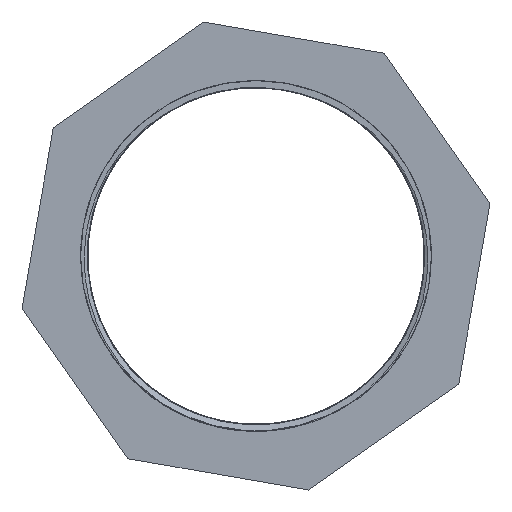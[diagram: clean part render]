
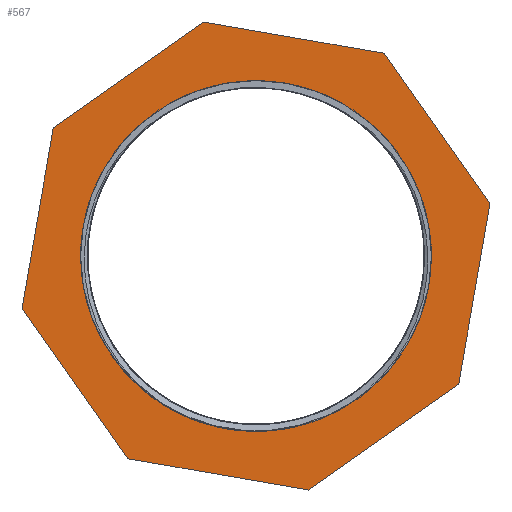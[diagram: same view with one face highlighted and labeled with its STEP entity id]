
A CAD part, left-side view. The second image highlights one B-rep face of the part: STEP entity #567.
In plain terms, the highlighted planar face has unit normal (-1, 0, 0).
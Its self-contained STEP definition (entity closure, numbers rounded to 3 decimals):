
#71=LINE('',#764,#95);
#75=LINE('',#771,#99);
#78=LINE('',#777,#102);
#81=LINE('',#783,#105);
#84=LINE('',#789,#108);
#87=LINE('',#795,#111);
#90=LINE('',#801,#114);
#92=LINE('',#804,#116);
#95=VECTOR('',#658,10.);
#99=VECTOR('',#664,10.);
#102=VECTOR('',#669,10.);
#105=VECTOR('',#674,10.);
#108=VECTOR('',#679,10.);
#111=VECTOR('',#684,10.);
#114=VECTOR('',#689,10.);
#116=VECTOR('',#693,10.);
#132=FACE_BOUND('',#200,.T.);
#155=FACE_OUTER_BOUND('',#199,.T.);
#199=EDGE_LOOP('',(#432,#433,#434,#435,#436,#437,#438,#439));
#200=EDGE_LOOP('',(#440));
#236=CIRCLE('',#616,37.59);
#252=VERTEX_POINT('',#761);
#253=VERTEX_POINT('',#763);
#255=VERTEX_POINT('',#769);
#257=VERTEX_POINT('',#775);
#259=VERTEX_POINT('',#781);
#261=VERTEX_POINT('',#787);
#263=VERTEX_POINT('',#793);
#265=VERTEX_POINT('',#799);
#268=VERTEX_POINT('',#813);
#308=EDGE_CURVE('',#252,#253,#71,.T.);
#312=EDGE_CURVE('',#255,#252,#75,.T.);
#315=EDGE_CURVE('',#257,#255,#78,.T.);
#318=EDGE_CURVE('',#259,#257,#81,.T.);
#321=EDGE_CURVE('',#261,#259,#84,.T.);
#324=EDGE_CURVE('',#263,#261,#87,.T.);
#327=EDGE_CURVE('',#265,#263,#90,.T.);
#329=EDGE_CURVE('',#253,#265,#92,.T.);
#332=EDGE_CURVE('',#268,#268,#236,.T.);
#432=ORIENTED_EDGE('',*,*,#318,.F.);
#433=ORIENTED_EDGE('',*,*,#321,.F.);
#434=ORIENTED_EDGE('',*,*,#324,.F.);
#435=ORIENTED_EDGE('',*,*,#327,.F.);
#436=ORIENTED_EDGE('',*,*,#329,.F.);
#437=ORIENTED_EDGE('',*,*,#308,.F.);
#438=ORIENTED_EDGE('',*,*,#312,.F.);
#439=ORIENTED_EDGE('',*,*,#315,.F.);
#440=ORIENTED_EDGE('',*,*,#332,.F.);
#547=PLANE('',#615);
#567=ADVANCED_FACE('',(#155,#132),#547,.T.);
#615=AXIS2_PLACEMENT_3D('',#812,#704,#705);
#616=AXIS2_PLACEMENT_3D('',#814,#706,#707);
#658=DIRECTION('',(0.,-0.985,-0.171));
#664=DIRECTION('',(0.,-0.817,0.576));
#669=DIRECTION('',(0.,-0.171,0.985));
#674=DIRECTION('',(0.,0.576,0.817));
#679=DIRECTION('',(0.,0.985,0.171));
#684=DIRECTION('',(0.,0.817,-0.576));
#689=DIRECTION('',(0.,0.171,-0.985));
#693=DIRECTION('',(0.,-0.576,-0.817));
#704=DIRECTION('center_axis',(-1.,0.,0.));
#705=DIRECTION('ref_axis',(0.,0.,1.));
#706=DIRECTION('center_axis',(-1.,0.,0.));
#707=DIRECTION('ref_axis',(0.,0.,1.));
#761=CARTESIAN_POINT('',(0.,11.28,50.161));
#763=CARTESIAN_POINT('',(0.,-27.493,43.445));
#764=CARTESIAN_POINT('',(0.,11.28,50.161));
#769=CARTESIAN_POINT('',(0.,43.445,27.493));
#771=CARTESIAN_POINT('',(0.,43.445,27.493));
#775=CARTESIAN_POINT('',(0.,50.161,-11.28));
#777=CARTESIAN_POINT('',(0.,50.161,-11.28));
#781=CARTESIAN_POINT('',(0.,27.493,-43.445));
#783=CARTESIAN_POINT('',(0.,27.493,-43.445));
#787=CARTESIAN_POINT('',(0.,-11.28,-50.161));
#789=CARTESIAN_POINT('',(0.,-11.28,-50.161));
#793=CARTESIAN_POINT('',(0.,-43.445,-27.493));
#795=CARTESIAN_POINT('',(0.,-43.445,-27.493));
#799=CARTESIAN_POINT('',(0.,-50.161,11.28));
#801=CARTESIAN_POINT('',(0.,-50.161,11.28));
#804=CARTESIAN_POINT('',(0.,-27.493,43.445));
#812=CARTESIAN_POINT('Origin',(0.,-37.59,0.));
#813=CARTESIAN_POINT('',(0.,-37.59,0.));
#814=CARTESIAN_POINT('Origin',(0.,0.,0.));
